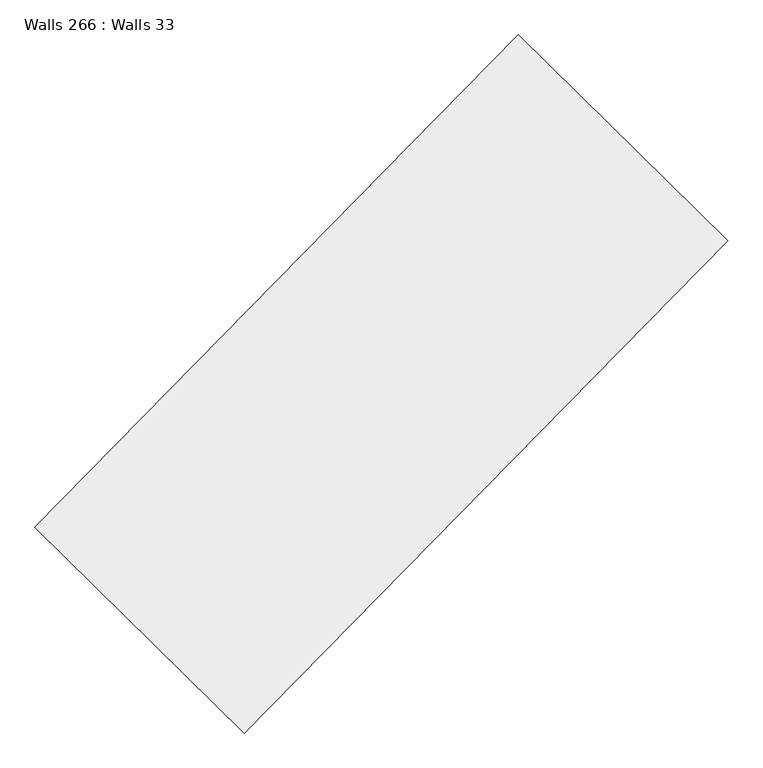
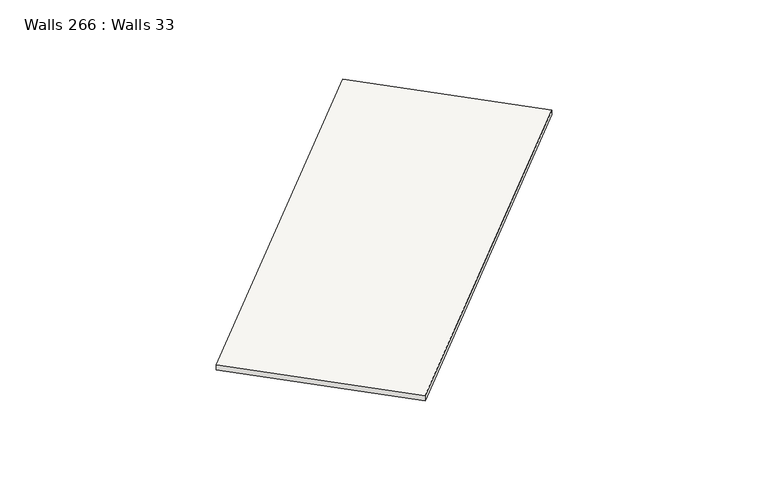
"""IFC4 building model written with IfcOpenShell, lengths in millimetres: slab geometry, Walls 266 : Walls 33."""

from ifc_helpers import new_model, si_unit, frame, origin, place, context, project, spatial, polyline, outline, extrude, source, transform, mapped, element, save


def walls_266_walls_33_8f6ac6d0(model_context):
    return source(origin(), model_context, "Body", "SweptSolid", [
        extrude(outline(polyline([(-50.0, 0.0), (50.0, 0.0), (-40.0, -8700.0000003), (-140.0, -8700.0000003), (-50.0, 0.0)])), frame((-182758.7882608, -345579.1343159, 635390.0), z_axis=(-0.7136987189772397, 0.7004528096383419, 0.0), x_axis=(0.0, 0.0, 1.0)), (0.0, 0.0, 1.0), 3700.0),
    ])


if __name__ == "__main__":
    model = new_model("IFC4")
    model_context = context("Model", 3, world=origin())
    ifc_project = project(units=[si_unit("LENGTHUNIT", "METRE", prefix="MILLI")], contexts=[model_context])
    site = spatial("IfcSite", under=ifc_project)
    building = spatial("IfcBuilding", under=site)
    placement = place(None, origin())
    walls_266_walls_33_shape = walls_266_walls_33_8f6ac6d0(model_context)
    element("IfcSlab", 1, ObjectType="Walls 266 : Walls 33", at=placement, inside=building, context=model_context, shape_type="MappedRepresentation", body=[
        mapped(walls_266_walls_33_shape, transform((0.0, 0.0, 0.0), x_axis=(1.0, 0.0, 0.0), y_axis=(0.0, 1.0, 0.0), z_axis=(0.0, 0.0, 1.0))),
    ])
    save(model, "model.ifc")
